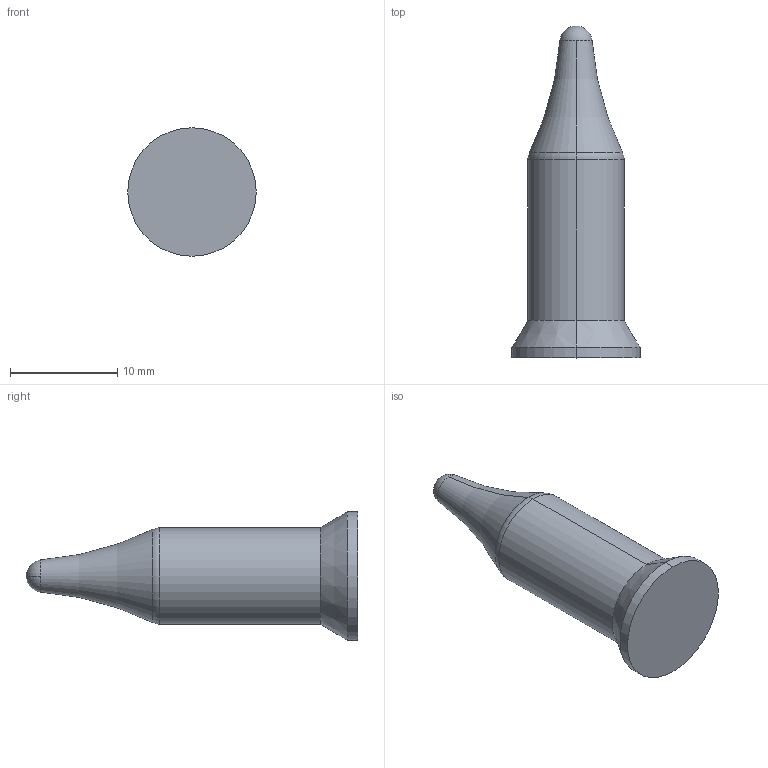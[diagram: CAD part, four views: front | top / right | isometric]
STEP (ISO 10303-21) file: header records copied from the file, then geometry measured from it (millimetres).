
FILE_DESCRIPTION (( 'STEP AP203' ), '1' );
FILE_NAME ('KCF-SW-PN-8P.STEP', '2022-04-05T06:45:21', ( '' ), ( '' ), 'SwSTEP 2.0', 'SolidWorks 2015', '' );
FILE_SCHEMA (( 'CONFIG_CONTROL_DESIGN' ));
Length unit declared in the file: millimetre
Products named in the file (2): KCF-SW-PN-8P
Bounding box: 12 x 31 x 12 mm (x, y, z)
Volume: 1571.9 mm3; surface area: 880.8 mm2
Topology: 1 solids, 1 shells, 13 faces, 26 edges, 15 vertices
Faces by surface type: cylinder 4, torus 4, cone 2, sphere 2, plane 1
Entity records: 499 total; most frequent: DIRECTION 76, CARTESIAN_POINT 56, ORIENTED_EDGE 52, AXIS2_PLACEMENT_3D 35, EDGE_CURVE 26, CIRCLE 20, PERSON_AND_ORGANIZATION 16, VERTEX_POINT 15
